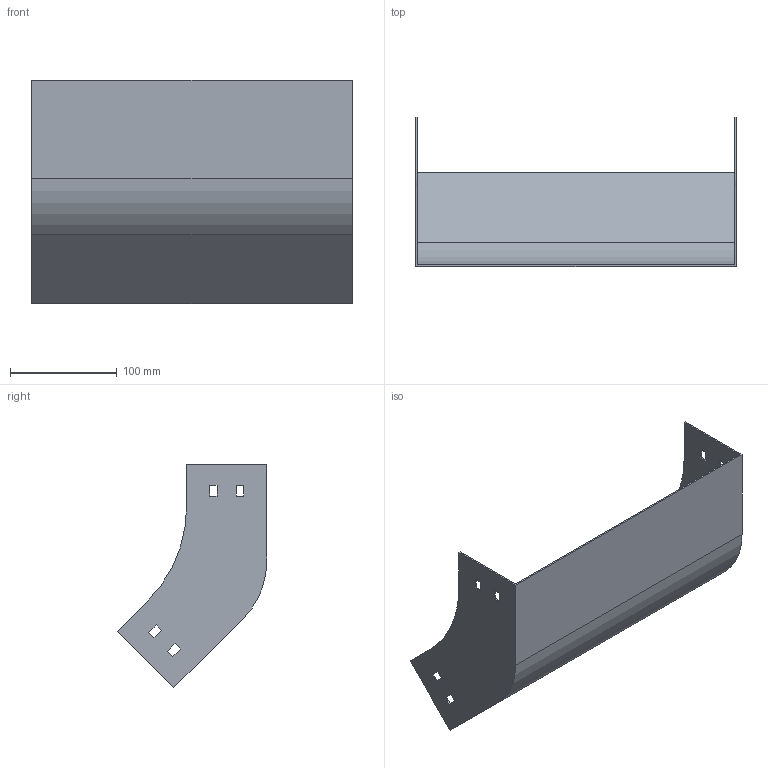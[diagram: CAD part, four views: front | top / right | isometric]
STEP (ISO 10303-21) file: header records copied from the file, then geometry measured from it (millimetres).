
FILE_DESCRIPTION (( 'STEP AP214' ), '1' );
FILE_NAME ('S4_307.step', '2025-07-16T09:26:49', ( '' ), ( '' ), 'SwSTEP 2.0', 'SolidWorks 2023', '' );
FILE_SCHEMA (( 'AUTOMOTIVE_DESIGN' ));
Length unit declared in the file: millimetre
Products named in the file (1): S4_307
Bounding box: 300 x 139.9 x 209.71 mm (x, y, z)
Volume: 155847.5 mm3; surface area: 210082 mm2
Topology: 1 solids, 1 shells, 50 faces, 144 edges, 96 vertices
Faces by surface type: plane 46, cylinder 4
Entity records: 1671 total; most frequent: CARTESIAN_POINT 291, ORIENTED_EDGE 288, DIRECTION 254, EDGE_CURVE 144, VECTOR 136, LINE 136, VERTEX_POINT 96, EDGE_LOOP 66
